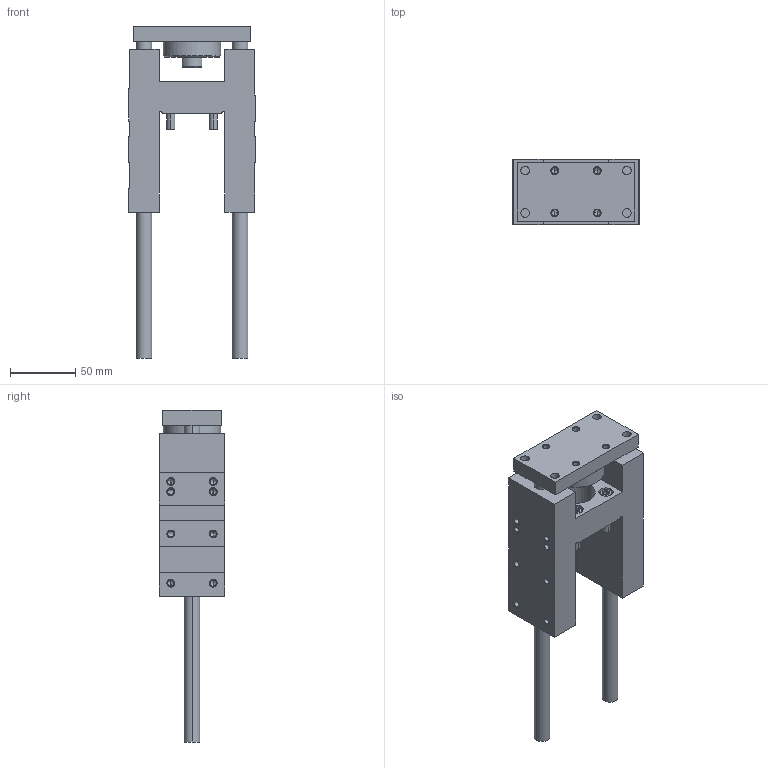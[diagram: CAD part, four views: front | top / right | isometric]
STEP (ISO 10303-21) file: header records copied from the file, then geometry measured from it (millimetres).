
FILE_DESCRIPTION (( 'STEP AP203' ), '1' );
FILE_NAME ('GB32-100.STEP', '2020-04-24T11:09:15', ( '' ), ( '' ), 'SwSTEP 2.0', 'SolidWorks 2019', '' );
FILE_SCHEMA (( 'CONFIG_CONTROL_DESIGN' ));
Length unit declared in the file: millimetre
Products named in the file (1): GB32-100
Bounding box: 97 x 50 x 255 mm (x, y, z)
Volume: 416555.8 mm3; surface area: 99896.2 mm2
Topology: 6 solids, 6 shells, 377 faces, 862 edges, 494 vertices
Faces by surface type: cone 154, plane 117, cylinder 106
Entity records: 11155 total; most frequent: CARTESIAN_POINT 2540, DIRECTION 1916, ORIENTED_EDGE 1660, EDGE_CURVE 830, AXIS2_PLACEMENT_3D 756, VERTEX_POINT 494, EDGE_LOOP 444, VECTOR 404
